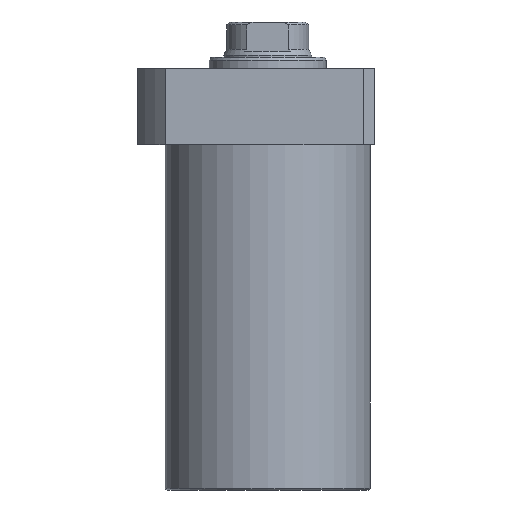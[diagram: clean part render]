
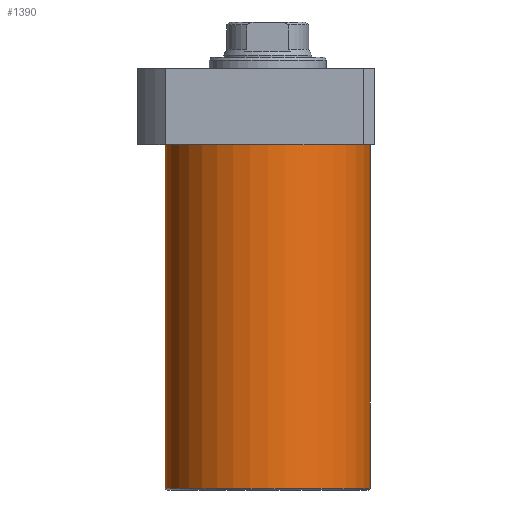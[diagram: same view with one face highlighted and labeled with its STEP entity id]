
A CAD part, front view. The second image highlights one B-rep face of the part: STEP entity #1390.
In plain terms, the highlighted cylindrical face has radius 52.5 mm (diameter 105 mm), a partial arc.
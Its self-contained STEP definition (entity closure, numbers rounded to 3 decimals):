
#75 = DIRECTION ( 'NONE',  ( 0., 0., 1. ) ) ;
#112 = EDGE_CURVE ( 'NONE', #1030, #1633, #1787, .T. ) ;
#117 = EDGE_LOOP ( 'NONE', ( #891, #500, #1807, #1647 ) ) ;
#121 = AXIS2_PLACEMENT_3D ( 'NONE', #264, #991, #685 ) ;
#158 = VECTOR ( 'NONE', #334, 1000. ) ;
#260 = EDGE_CURVE ( 'NONE', #1440, #424, #1300, .T. ) ;
#264 = CARTESIAN_POINT ( 'NONE',  ( 0., 0., -196.5 ) ) ;
#334 = DIRECTION ( 'NONE',  ( 0., 0., 1. ) ) ;
#424 = VERTEX_POINT ( 'NONE', #1951 ) ;
#426 = EDGE_CURVE ( 'NONE', #424, #1633, #1935, .T. ) ;
#500 = ORIENTED_EDGE ( 'NONE', *, *, #1579, .T. ) ;
#616 = DIRECTION ( 'NONE',  ( 0., 0., 1. ) ) ;
#685 = DIRECTION ( 'NONE',  ( 1., 0., 0. ) ) ;
#793 = DIRECTION ( 'NONE',  ( -1., 0., 0. ) ) ;
#808 = VECTOR ( 'NONE', #75, 1000. ) ;
#858 = DIRECTION ( 'NONE',  ( 1., 0., 0. ) ) ;
#891 = ORIENTED_EDGE ( 'NONE', *, *, #112, .F. ) ;
#914 = CIRCLE ( 'NONE', #1520, 52.5 ) ;
#944 = CARTESIAN_POINT ( 'NONE',  ( 52.5, 0., -196.5 ) ) ;
#988 = CARTESIAN_POINT ( 'NONE',  ( 52.5, 0., -195.5 ) ) ;
#991 = DIRECTION ( 'NONE',  ( 0., 0., 1. ) ) ;
#1028 = FACE_OUTER_BOUND ( 'NONE', #117, .T. ) ;
#1030 = VERTEX_POINT ( 'NONE', #1458 ) ;
#1160 = CARTESIAN_POINT ( 'NONE',  ( 0., 0., -19.5 ) ) ;
#1163 = DIRECTION ( 'NONE',  ( 0., 0., -1. ) ) ;
#1213 = CARTESIAN_POINT ( 'NONE',  ( -52.5, 0., -196.5 ) ) ;
#1300 = LINE ( 'NONE', #944, #808 ) ;
#1390 = ADVANCED_FACE ( 'NONE', ( #1028 ), #1866, .T. ) ;
#1440 = VERTEX_POINT ( 'NONE', #988 ) ;
#1458 = CARTESIAN_POINT ( 'NONE',  ( -52.5, 0., -195.5 ) ) ;
#1520 = AXIS2_PLACEMENT_3D ( 'NONE', #1522, #616, #793 ) ;
#1522 = CARTESIAN_POINT ( 'NONE',  ( 0., 0., -195.5 ) ) ;
#1579 = EDGE_CURVE ( 'NONE', #1030, #1440, #914, .T. ) ;
#1633 = VERTEX_POINT ( 'NONE', #1847 ) ;
#1647 = ORIENTED_EDGE ( 'NONE', *, *, #426, .T. ) ;
#1787 = LINE ( 'NONE', #1213, #158 ) ;
#1807 = ORIENTED_EDGE ( 'NONE', *, *, #260, .T. ) ;
#1847 = CARTESIAN_POINT ( 'NONE',  ( -52.5, 0., -19.5 ) ) ;
#1866 = CYLINDRICAL_SURFACE ( 'NONE', #121, 52.5 ) ;
#1935 = CIRCLE ( 'NONE', #1954, 52.5 ) ;
#1951 = CARTESIAN_POINT ( 'NONE',  ( 52.5, 0., -19.5 ) ) ;
#1954 = AXIS2_PLACEMENT_3D ( 'NONE', #1160, #1163, #858 ) ;
